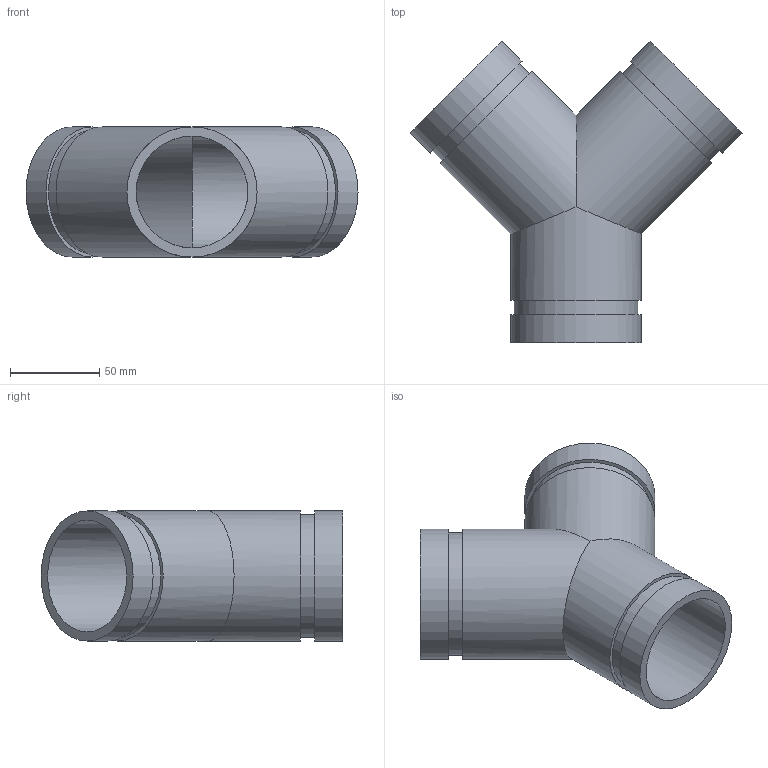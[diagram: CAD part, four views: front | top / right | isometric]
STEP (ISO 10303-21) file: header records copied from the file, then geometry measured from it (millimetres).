
FILE_DESCRIPTION(/* description */ ('This is default description.','CAx-IF Rec.Pracs.---Representation and Presentation of Product Manufacturing Information (PMI)---4.0---2014-10-13'),/* implementation_level */ '2;1');
FILE_NAME(/* name */ 'C:\Users\kkamble\AppData\Roaming\Autodesk\ApplicationPlugins\Back Up\Victaulic_IPS-Tee- Wye_ No 33 SWS (OGS)\Victaulic_IPS-Tee- Wye_ No 33 SWS (OGS)_2.5.stp',/* time_stamp */ '2020-09-16T22:08:00+06:00',/* author */ ('cgray'),/* organization */ ('Victaulic'),/* preprocessor_version */ 'ST-DEVELOPER v17.2',/* originating_system */ 'Autodesk Inventor 2019',/* authorisation */ '');
FILE_SCHEMA (('AP242_MANAGED_MODEL_BASED_3D_ENGINEERING_MIM_LF { 1 0 10303 442 1 1 4 }'));
Length unit declared in the file: inch
Products named in the file (1): 33 SWS-02.5
Bounding box: 186.34 x 169.37 x 73.03 mm (x, y, z)
Volume: 239216 mm3; surface area: 102427.9 mm2
Topology: 1 solids, 1 shells, 21 faces, 48 edges, 34 vertices
Faces by surface type: cylinder 12, plane 9
Full cylindrical faces by diameter (mm): 62.713 x3, 69.088 x3, 73.025 x6
Entity records: 787 total; most frequent: DIRECTION 154, CARTESIAN_POINT 121, ORIENTED_EDGE 96, AXIS2_PLACEMENT_3D 71, EDGE_CURVE 48, VERTEX_POINT 34, EDGE_LOOP 30, CIRCLE 26
